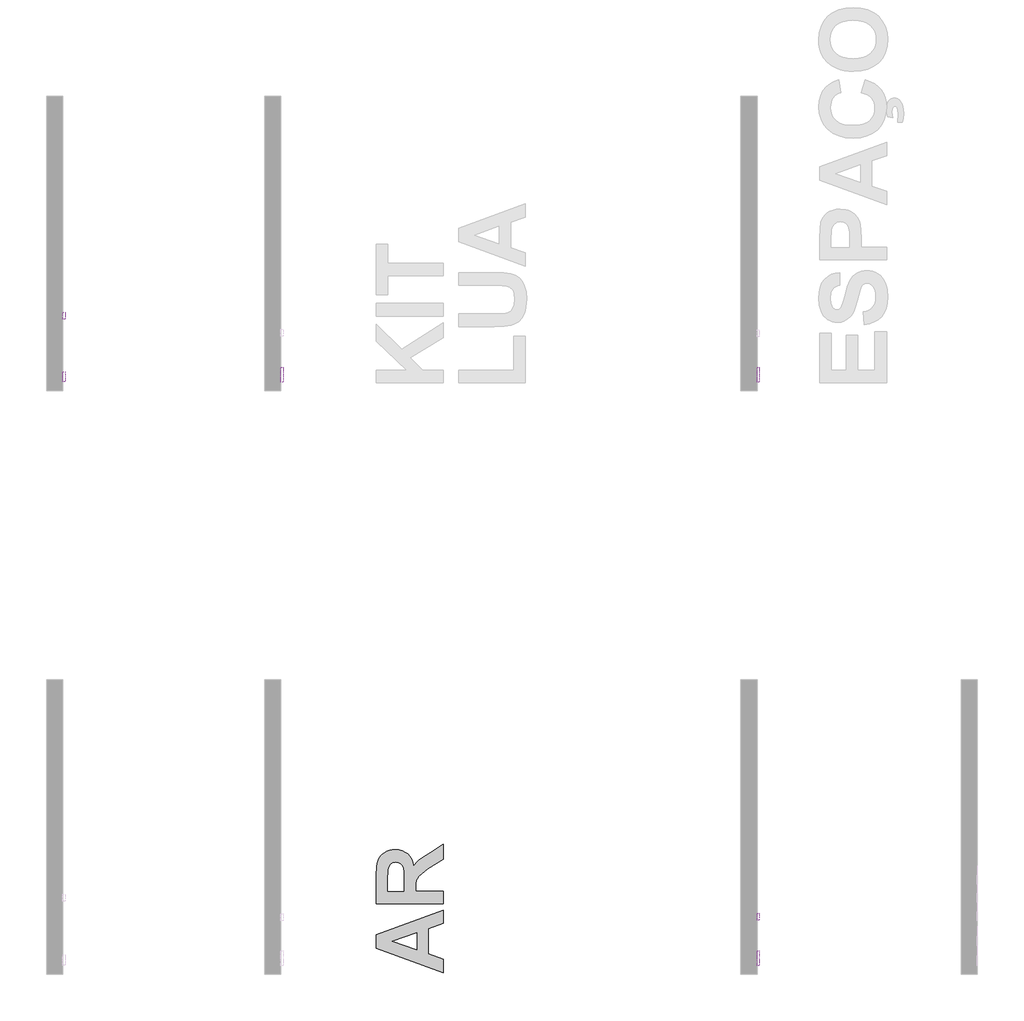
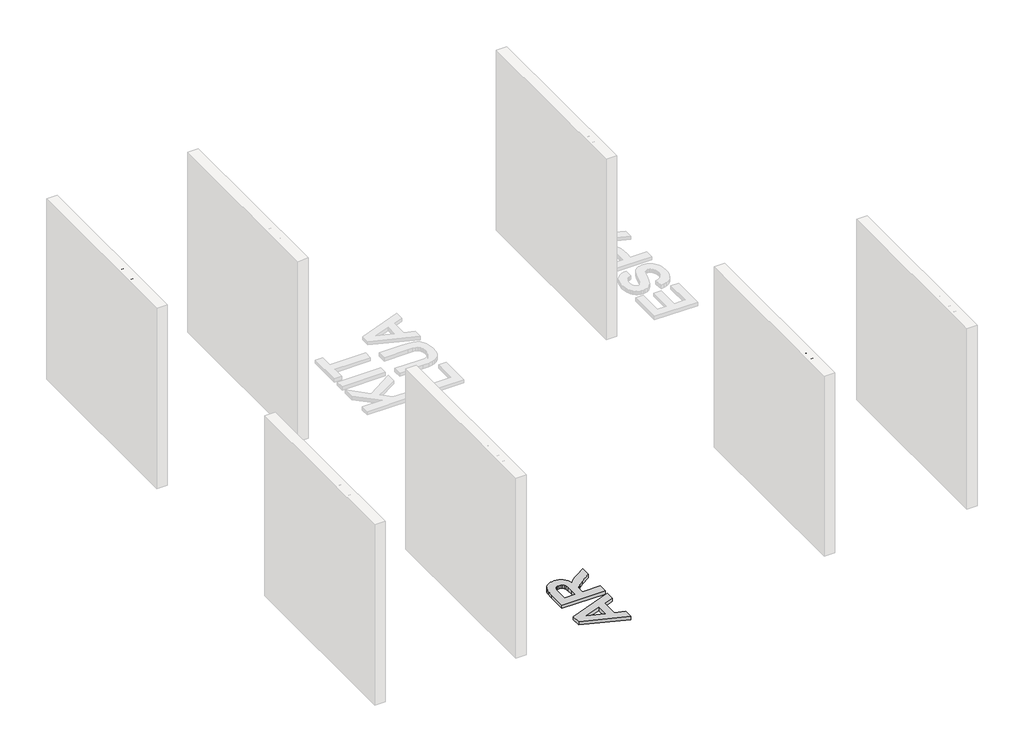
# One storey, part 2 of 9: 7 proxies.
"""IFC4 building model written with IfcOpenShell, lengths in millimetres."""

import ifcopenshell
import ifcopenshell.guid

model = None  # the IFC model being written
_history = None  # IfcOwnerHistory: only IFC2X3 demands one
_inside = {}  # id of a spatial element -> (the spatial element, [elements in it])
_under = {}  # id of a project, library or spatial element -> (it, [spatial elements below it])
_declared = {}  # id of a project -> (the project, [libraries it declares])
_typed = {}  # id of a type object -> (the type object, [elements of that type])
_made_of = {}  # id of a material, layer set ... -> (it, [elements and type objects made of it])


def new_model(schema):
    """Start an empty IFC model of exactly this schema.

    Asked for "IFC4X3", IfcOpenShell would pick the latest addendum, in which some entities
    have other attributes; the version numbers below select the first issue.
    IFC2X3 requires an IfcOwnerHistory on every rooted entity: one is made here for all.
    """
    global model, _history
    if schema == "IFC4X3":
        model = ifcopenshell.file(schema_version=(4, 3, 0, 0))
    else:
        model = ifcopenshell.file(schema=schema)
    _inside.clear()
    _under.clear()
    _declared.clear()
    _typed.clear()
    _made_of.clear()
    _history = None
    if model.schema == "IFC2X3":
        org = make("IfcOrganization", Name="unknown")
        user = make(
            "IfcPersonAndOrganization",
            ThePerson=make("IfcPerson", FamilyName="unknown"),
            TheOrganization=org,
        )
        app = make(
            "IfcApplication",
            ApplicationDeveloper=org,
            Version="unknown",
            ApplicationFullName="unknown",
            ApplicationIdentifier="unknown",
        )
        _history = make(
            "IfcOwnerHistory",
            OwningUser=user,
            OwningApplication=app,
            ChangeAction="ADDED",
            CreationDate=0,
        )
    return model


def make(cls, **values):
    """One entity of the class cls with the attributes given. An attribute that is None is left unset."""
    return model.create_entity(
        cls, **{name: value for name, value in values.items() if value is not None}
    )


def rooted(cls, **values):
    """An entity with a GlobalId (a new one), such as an element, a storey or a relation."""
    return make(cls, GlobalId=ifcopenshell.guid.new(), OwnerHistory=_history, **values)


def si_unit(unit_type, name, prefix=None):
    """IfcSIUnit, for example si_unit("LENGTHUNIT", "METRE", prefix="MILLI")."""
    return make("IfcSIUnit", UnitType=unit_type, Prefix=prefix, Name=name)


def assignment(units):
    """IfcUnitAssignment: the units of a project."""
    return None if units is None else make("IfcUnitAssignment", Units=units)


def point(xyz):
    """IfcCartesianPoint."""
    return None if xyz is None else make("IfcCartesianPoint", Coordinates=xyz)


def direction(xyz):
    """IfcDirection."""
    return None if xyz is None else make("IfcDirection", DirectionRatios=xyz)


def frame(location, z_axis=None, x_axis=None):
    """IfcAxis2Placement3D, a coordinate frame: its origin and axes. An axis left out is left unset."""
    return make(
        "IfcAxis2Placement3D",
        Location=point(location),
        Axis=direction(z_axis),
        RefDirection=direction(x_axis),
    )


def origin():
    """The frame at (0, 0, 0) with its axes left unset."""
    return frame((0.0, 0.0, 0.0))


def origin_with_axes():
    """The frame at (0, 0, 0) with the z axis (0, 0, 1) and the x axis (1, 0, 0) written out."""
    return frame((0.0, 0.0, 0.0), z_axis=(0.0, 0.0, 1.0), x_axis=(1.0, 0.0, 0.0))


def place(relative_to, where):
    """IfcLocalPlacement: puts the frame where relative to a parent placement (None: the world)."""
    return make(
        "IfcLocalPlacement", PlacementRelTo=relative_to, RelativePlacement=where
    )


def context(
    kind, dimensions, precision=None, world=None, true_north=None, identifier=None
):
    """IfcGeometricRepresentationContext, for example the 3D "Model" context."""
    return make(
        "IfcGeometricRepresentationContext",
        ContextIdentifier=identifier,
        ContextType=kind,
        CoordinateSpaceDimension=dimensions,
        Precision=precision,
        WorldCoordinateSystem=world,
        TrueNorth=true_north,
    )


def project(units=None, contexts=None):
    """IfcProject with its units and contexts."""
    return rooted(
        "IfcProject",
        Name="project",
        RepresentationContexts=contexts,
        UnitsInContext=assignment(units),
    )


def spatial(cls, under=None, at=None, **own):
    """A site, building, storey or space (cls), placed at a placement, below another one or the project."""
    s = rooted(cls, ObjectPlacement=at, **own)
    if under is not None:
        _under.setdefault(under.id(), (under, []))[1].append(s)
    return s


def polyline(points):
    """IfcPolyline through the points."""
    return make("IfcPolyline", Points=[point(p) for p in points])


def outline(outer, holes=None, kind="AREA"):
    """IfcArbitraryClosedProfileDef: a profile drawn as a closed curve; with holes, ...WithVoids."""
    if holes is None:
        return make("IfcArbitraryClosedProfileDef", ProfileType=kind, OuterCurve=outer)
    return make(
        "IfcArbitraryProfileDefWithVoids",
        ProfileType=kind,
        OuterCurve=outer,
        InnerCurves=holes,
    )


def extrude(swept, where, along, depth):
    """IfcExtrudedAreaSolid: the profile swept, set in the frame where, extruded along a direction by depth."""
    return make(
        "IfcExtrudedAreaSolid",
        SweptArea=swept,
        Position=where,
        ExtrudedDirection=direction(along),
        Depth=depth,
    )


def shape(context_of_items, identifier, shape_type, items):
    """IfcShapeRepresentation: the items that make up one representation, for example the "Body"."""
    return make(
        "IfcShapeRepresentation",
        ContextOfItems=context_of_items,
        RepresentationIdentifier=identifier,
        RepresentationType=shape_type,
        Items=items,
    )


def made_of(thing, what):
    """Note that an element or type object is made of a material, layer set ...; save() writes the relation."""
    if what is not None:
        _made_of.setdefault(what.id(), (what, []))[1].append(thing)
    return thing


def element(
    cls,
    number,
    at=None,
    inside=None,
    cuts=None,
    type_object=None,
    material=None,
    context=None,
    identifier="Body",
    shape_type=None,
    held_by="IfcProductDefinitionShape",
    body=None,
    shapes=None,
    **own,
):
    """One element of the class cls, such as IfcWall. Its Tag is "e" and its number.

    at: its placement. inside: the storey or other place that contains it. cuts: it is an
    opening in that element (IfcRelVoidsElement). A single representation is given by context,
    identifier, shape_type and body (its items); several are given by shapes. held_by: the class
    of the entity that holds the representations. save() writes the other relations.
    """
    e = rooted(cls, Tag="e%d" % number, ObjectPlacement=at, **own)
    if body is not None:
        shapes = [shape(context, identifier, shape_type, body)]
    if shapes is not None:
        e.Representation = make(held_by, Representations=shapes)
    if inside is not None:
        _inside.setdefault(inside.id(), (inside, []))[1].append(e)
    if cuts is not None:
        rooted(
            "IfcRelVoidsElement", RelatingBuildingElement=cuts, RelatedOpeningElement=e
        )
    if type_object is not None:
        _typed.setdefault(type_object.id(), (type_object, []))[1].append(e)
    return made_of(e, material)


def aggregate(whole, parts):
    """IfcRelAggregates: a whole, such as a stair, and the parts it consists of."""
    return rooted("IfcRelAggregates", RelatingObject=whole, RelatedObjects=parts)


def save(model, path):
    """Write the relations noted so far, then the file.

    IfcRelAggregates (storeys below a building ...), IfcRelContainedInSpatialStructure (elements
    in a storey), IfcRelDefinesByType, IfcRelAssociatesMaterial and IfcRelDeclares: one each for
    every whole, place, type object, material and project.
    """
    for whole, parts in _under.values():
        aggregate(whole, parts)
    for where, things in _inside.values():
        rooted(
            "IfcRelContainedInSpatialStructure",
            RelatedElements=things,
            RelatingStructure=where,
        )
    for kind, things in _typed.values():
        rooted("IfcRelDefinesByType", RelatedObjects=things, RelatingType=kind)
    for what, things in _made_of.values():
        rooted("IfcRelAssociatesMaterial", RelatedObjects=things, RelatingMaterial=what)
    for by, libraries in _declared.values():
        rooted("IfcRelDeclares", RelatingContext=by, RelatedDefinitions=libraries)
    model.write(path)


model = new_model("IFC4")

# Units and contexts
model_context = context("Model", 3, world=origin())
ifc_project = project(units=[si_unit("LENGTHUNIT", "METRE", prefix="MILLI")], contexts=[model_context])

# Site, building, storey
site = spatial("IfcSite", under=ifc_project)
building = spatial("IfcBuilding", under=site)
storey = spatial("IfcBuildingStorey", under=building, Name="PORTOBELLO - SHOWROOM", Elevation=0.0)

# Proxies
placement = place(None, origin())
element("IfcBuildingElementProxy", 1, Name="10mm Arial", ObjectType="10mm Arial", at=placement, inside=storey, context=model_context, shape_type="SweptSolid", body=[
    extrude(outline(polyline([(-9748.5890703, 2548.4925024), (-9775.9840162, 2648.9488126), (-9763.0345699, 2648.9488126), (-9747.1420677, 2582.9262572), (-9742.2369745, 2562.5455946), (-9736.9885247, 2580.5718124), (-9717.073846, 2648.9488126), (-9698.4099661, 2648.9488126), (-9683.939941, 2599.3828451), (-9673.1732612, 2562.5455946), (-9668.4153208, 2582.337646), (-9652.3756658, 2648.9488126), (-9639.4262196, 2648.9488126), (-9666.8456909, 2548.4925024), (-9680.261121, 2548.4925024), (-9704.345129, 2625.9929761), (-9707.7051179, 2636.8087067), (-9711.4820397, 2623.7856841), (-9733.4323321, 2548.4925024), (-9748.5890703, 2548.4925024)])), frame((127826.5708693, 0.0, 0.0), z_axis=(1.0, 0.0, 0.0), x_axis=(0.0, 1.0, 0.0)), (0.0, 0.0, 1.0), 20.0),
    extrude(outline(polyline([(-9628.4388106, 2548.4925024), (-9628.4388106, 2648.9488126), (-9615.8817719, 2648.9488126), (-9615.8817719, 2612.0134603), (-9606.0899794, 2620.8794163), (-9594.0295814, 2623.834735), (-9579.9274382, 2620.6096362), (-9571.3680505, 2611.6946292), (-9568.7928765, 2595.1889903), (-9568.7928765, 2548.4925024), (-9581.3499153, 2548.4925024), (-9581.3499153, 2593.8891406), (-9585.3475663, 2607.1328925), (-9596.6783317, 2611.2776963), (-9606.9667649, 2608.4817931), (-9613.8338954, 2600.903424), (-9615.8817719, 2587.6841976), (-9615.8817719, 2548.4925024), (-9628.4388106, 2548.4925024)])), frame((127826.5708693, 0.0, 0.0), z_axis=(1.0, 0.0, 0.0), x_axis=(0.0, 1.0, 0.0)), (0.0, 0.0, 1.0), 20.0),
    extrude(outline(polyline([(127846.5708693, -9538.9699094), (127846.5708693, -9551.5269482), (127826.5708693, -9551.5269482), (127826.5708693, -9538.9699094), (127846.5708693, -9538.9699094)])), frame((0.0, 0.0, 2636.3917738), z_axis=(0.0, 0.0, 1.0), x_axis=(1.0, 0.0, 0.0)), (0.0, 0.0, 1.0), 12.5570388),
    extrude(outline(polyline([(127846.5708693, -9538.9699094), (127846.5708693, -9551.5269482), (127826.5708693, -9551.5269482), (127826.5708693, -9538.9699094), (127846.5708693, -9538.9699094)])), frame((0.0, 0.0, 2548.4925024), z_axis=(0.0, 0.0, 1.0), x_axis=(1.0, 0.0, 0.0)), (0.0, 0.0, 1.0), 73.7726028),
    extrude(outline(polyline([(-9493.4506439, 2558.9648766), (-9491.881014, 2548.1246204), (-9501.2742676, 2546.9228726), (-9511.7956927, 2549.0075372), (-9517.0441425, 2554.4767162), (-9518.5647214, 2568.7260122), (-9518.5647214, 2609.7080664), (-9527.9825005, 2609.7080664), (-9527.9825005, 2622.2651052), (-9518.5647214, 2622.2651052), (-9518.5647214, 2640.1932211), (-9506.0076826, 2647.5753865), (-9506.0076826, 2622.2651052), (-9493.4506439, 2622.2651052), (-9493.4506439, 2609.7080664), (-9506.0076826, 2609.7080664), (-9506.0076826, 2569.0938942), (-9505.345495, 2562.619171), (-9503.1995167, 2560.3260399), (-9498.9198229, 2559.4799113), (-9493.4506439, 2558.9648766)])), frame((127826.5708693, 0.0, 0.0), z_axis=(1.0, 0.0, 0.0), x_axis=(0.0, 1.0, 0.0)), (0.0, 0.0, 1.0), 20.0),
    extrude(outline(polyline([(-9429.242973, 2570.4673203), (-9416.9311889, 2568.8976904), (-9421.3672326, 2559.6209328), (-9428.4458953, 2552.6863572), (-9438.0077615, 2548.3637437), (-9449.8934156, 2546.9228726), (-9464.6270895, 2549.4091417), (-9475.9639864, 2556.8679492), (-9483.1928676, 2568.814917), (-9485.6024946, 2584.7656671), (-9483.1683421, 2601.2529119), (-9475.8658845, 2613.5830901), (-9464.6822718, 2621.2718238), (-9450.6046542, 2623.834735), (-9436.9654292, 2621.2779552), (-9426.0669251, 2613.6076156), (-9418.9208173, 2601.3019628), (-9416.5387814, 2584.8392435), (-9416.6123578, 2581.4547292), (-9473.0454559, 2581.4547292), (-9470.8718864, 2572.0553442), (-9465.822706, 2565.1452941), (-9458.5355768, 2560.896257), (-9449.648161, 2559.4799113), (-9437.3363769, 2562.1041362), (-9429.242973, 2570.4673203)]), holes=[polyline([(-9473.0454559, 2594.011768), (-9429.0958202, 2594.011768), (-9434.1235408, 2605.3915843), (-9441.4443925, 2609.8061683), (-9450.6537051, 2611.2776963), (-9466.1170116, 2606.5810695), (-9470.982251, 2601.0904307), (-9473.0454559, 2594.011768)])]), frame((127826.5708693, 0.0, 0.0), z_axis=(1.0, 0.0, 0.0), x_axis=(0.0, 1.0, 0.0)), (0.0, 0.0, 1.0), 20.0),
])
element("IfcBuildingElementProxy", 2, Name="10mm Arial", ObjectType="10mm Arial", at=placement, inside=storey, context=model_context, shape_type="SweptSolid", body=[
    extrude(outline(polyline([(-4398.5890703, 2548.4925024), (-4425.9840162, 2648.9488126), (-4413.0345699, 2648.9488126), (-4397.1420677, 2582.9262572), (-4392.2369745, 2562.5455946), (-4386.9885247, 2580.5718124), (-4367.073846, 2648.9488126), (-4348.4099661, 2648.9488126), (-4333.939941, 2599.3828451), (-4323.1732612, 2562.5455946), (-4318.4153208, 2582.337646), (-4302.3756658, 2648.9488126), (-4289.4262196, 2648.9488126), (-4316.8456909, 2548.4925024), (-4330.261121, 2548.4925024), (-4354.345129, 2625.9929761), (-4357.7051179, 2636.8087067), (-4361.4820397, 2623.7856841), (-4383.4323321, 2548.4925024), (-4398.5890703, 2548.4925024)])), frame((127826.5708693, 0.0, 0.0), z_axis=(1.0, 0.0, 0.0), x_axis=(0.0, 1.0, 0.0)), (0.0, 0.0, 1.0), 20.0),
    extrude(outline(polyline([(-4278.4388106, 2548.4925024), (-4278.4388106, 2648.9488126), (-4265.8817719, 2648.9488126), (-4265.8817719, 2612.0134603), (-4256.0899794, 2620.8794163), (-4244.0295814, 2623.834735), (-4229.9274382, 2620.6096362), (-4221.3680505, 2611.6946292), (-4218.7928765, 2595.1889903), (-4218.7928765, 2548.4925024), (-4231.3499153, 2548.4925024), (-4231.3499153, 2593.8891406), (-4235.3475663, 2607.1328925), (-4246.6783317, 2611.2776963), (-4256.9667649, 2608.4817931), (-4263.8338954, 2600.903424), (-4265.8817719, 2587.6841976), (-4265.8817719, 2548.4925024), (-4278.4388106, 2548.4925024)])), frame((127826.5708693, 0.0, 0.0), z_axis=(1.0, 0.0, 0.0), x_axis=(0.0, 1.0, 0.0)), (0.0, 0.0, 1.0), 20.0),
    extrude(outline(polyline([(127846.5708693, -4188.9699094), (127846.5708693, -4201.5269482), (127826.5708693, -4201.5269482), (127826.5708693, -4188.9699094), (127846.5708693, -4188.9699094)])), frame((0.0, 0.0, 2636.3917738), z_axis=(0.0, 0.0, 1.0), x_axis=(1.0, 0.0, 0.0)), (0.0, 0.0, 1.0), 12.5570388),
    extrude(outline(polyline([(127846.5708693, -4188.9699094), (127846.5708693, -4201.5269482), (127826.5708693, -4201.5269482), (127826.5708693, -4188.9699094), (127846.5708693, -4188.9699094)])), frame((0.0, 0.0, 2548.4925024), z_axis=(0.0, 0.0, 1.0), x_axis=(1.0, 0.0, 0.0)), (0.0, 0.0, 1.0), 73.7726028),
    extrude(outline(polyline([(-4143.4506439, 2558.9648766), (-4141.881014, 2548.1246204), (-4151.2742676, 2546.9228726), (-4161.7956927, 2549.0075372), (-4167.0441425, 2554.4767162), (-4168.5647214, 2568.7260122), (-4168.5647214, 2609.7080664), (-4177.9825005, 2609.7080664), (-4177.9825005, 2622.2651052), (-4168.5647214, 2622.2651052), (-4168.5647214, 2640.1932211), (-4156.0076826, 2647.5753865), (-4156.0076826, 2622.2651052), (-4143.4506439, 2622.2651052), (-4143.4506439, 2609.7080664), (-4156.0076826, 2609.7080664), (-4156.0076826, 2569.0938942), (-4155.345495, 2562.619171), (-4153.1995167, 2560.3260399), (-4148.9198229, 2559.4799113), (-4143.4506439, 2558.9648766)])), frame((127826.5708693, 0.0, 0.0), z_axis=(1.0, 0.0, 0.0), x_axis=(0.0, 1.0, 0.0)), (0.0, 0.0, 1.0), 20.0),
    extrude(outline(polyline([(-4079.242973, 2570.4673203), (-4066.9311889, 2568.8976904), (-4071.3672326, 2559.6209328), (-4078.4458953, 2552.6863572), (-4088.0077615, 2548.3637437), (-4099.8934156, 2546.9228726), (-4114.6270895, 2549.4091417), (-4125.9639864, 2556.8679492), (-4133.1928676, 2568.814917), (-4135.6024946, 2584.7656671), (-4133.1683421, 2601.2529119), (-4125.8658845, 2613.5830901), (-4114.6822718, 2621.2718238), (-4100.6046542, 2623.834735), (-4086.9654292, 2621.2779552), (-4076.0669251, 2613.6076156), (-4068.9208173, 2601.3019628), (-4066.5387814, 2584.8392435), (-4066.6123578, 2581.4547292), (-4123.0454559, 2581.4547292), (-4120.8718864, 2572.0553442), (-4115.822706, 2565.1452941), (-4108.5355768, 2560.896257), (-4099.648161, 2559.4799113), (-4087.3363769, 2562.1041362), (-4079.242973, 2570.4673203)]), holes=[polyline([(-4123.0454559, 2594.011768), (-4079.0958202, 2594.011768), (-4084.1235408, 2605.3915843), (-4091.4443925, 2609.8061683), (-4100.6537051, 2611.2776963), (-4116.1170116, 2606.5810695), (-4120.982251, 2601.0904307), (-4123.0454559, 2594.011768)])]), frame((127826.5708693, 0.0, 0.0), z_axis=(1.0, 0.0, 0.0), x_axis=(0.0, 1.0, 0.0)), (0.0, 0.0, 1.0), 20.0),
])
element("IfcBuildingElementProxy", 3, Name="10mm Arial", ObjectType="10mm Arial", at=placement, inside=storey, context=model_context, shape_type="SweptSolid", body=[
    extrude(outline(polyline([(-4369.4773417, 2587.7332486), (-4369.4773417, 2600.2902873), (-4328.6669657, 2600.2902873), (-4328.6669657, 2562.7417984), (-4348.8146363, 2550.8959981), (-4370.1150038, 2546.9228726), (-4384.2018186, 2548.5016995), (-4396.9336013, 2553.2381802), (-4407.5102086, 2560.9667677), (-4415.1314973, 2571.5219153), (-4419.7392193, 2584.1831873), (-4421.2751266, 2598.2301482), (-4419.7453507, 2612.3782766), (-4415.1560228, 2625.5392549), (-4407.6972153, 2636.5787805), (-4397.5590007, 2644.3625504), (-4385.2104284, 2648.9794694), (-4371.120548, 2650.5184424), (-4351.4756494, 2646.9499871), (-4337.7046001, 2637.0171732), (-4330.1139682, 2620.4011697), (-4341.6899883, 2617.1392827), (-4347.4166847, 2628.752091), (-4357.2023458, 2635.4475433), (-4371.3167517, 2637.9614036), (-4387.3931949, 2635.2513396), (-4398.3315529, 2628.1389544), (-4404.7940132, 2618.4636579), (-4408.7180879, 2598.745183), (-4403.9969356, 2576.8562043), (-4390.2626744, 2563.7596052), (-4371.120548, 2559.4799113), (-4353.9404588, 2562.7050102), (-4341.2240045, 2569.5844035), (-4341.2240045, 2587.7332486), (-4369.4773417, 2587.7332486)])), frame((121459.5859035, 0.0, 0.0), z_axis=(1.0, 0.0, 0.0), x_axis=(0.0, 1.0, 0.0)), (0.0, 0.0, 1.0), 20.0),
    extrude(outline(polyline([(-4309.8314076, 2548.4925024), (-4309.8314076, 2622.2651052), (-4298.8439986, 2622.2651052), (-4298.8439986, 2611.3512727), (-4291.0449003, 2621.4067139), (-4283.1967511, 2623.834735), (-4270.5906614, 2619.9597114), (-4274.7845161, 2608.7025223), (-4283.613684, 2611.2776963), (-4290.7138065, 2608.8006242), (-4295.2387551, 2601.9334936), (-4297.2743688, 2587.2672647), (-4297.2743688, 2548.4925024), (-4309.8314076, 2548.4925024)])), frame((121459.5859035, 0.0, 0.0), z_axis=(1.0, 0.0, 0.0), x_axis=(0.0, 1.0, 0.0)), (0.0, 0.0, 1.0), 20.0),
    extrude(outline(polyline([(-4215.6536168, 2557.9102815), (-4227.8305108, 2549.3999447), (-4241.2827291, 2546.9228726), (-4251.776563, 2548.4127947), (-4259.5174133, 2552.8825609), (-4264.2906822, 2559.6699837), (-4265.8817719, 2568.1128755), (-4263.4782762, 2578.0456894), (-4257.1629686, 2585.2561765), (-4248.3705889, 2589.3764548), (-4237.5058073, 2591.2649157), (-4215.7271932, 2595.5813978), (-4215.6536168, 2598.377301), (-4219.1117075, 2607.6479272), (-4232.9931215, 2611.2776963), (-4245.6973131, 2608.8619378), (-4251.7551033, 2600.2902873), (-4264.312142, 2601.8599172), (-4258.8797512, 2614.1226504), (-4247.9413932, 2621.308612), (-4231.3744407, 2623.834735), (-4216.1563889, 2621.6029176), (-4207.5602129, 2615.9988485), (-4203.7097147, 2607.476249), (-4203.096578, 2596.4888401), (-4203.096578, 2580.866118), (-4202.4589159, 2559.0507157), (-4199.9573183, 2548.4925024), (-4212.5143571, 2548.4925024), (-4215.6536168, 2557.9102815)]), holes=[polyline([(-4215.6536168, 2583.024359), (-4235.911652, 2579.1738608), (-4246.7151199, 2577.1382471), (-4251.6079505, 2573.8273092), (-4253.3247331, 2568.9957923), (-4249.5845995, 2562.2022381), (-4238.6094533, 2559.4799113), (-4225.9052617, 2562.484281), (-4217.713756, 2569.7560817), (-4215.7271932, 2579.4681664), (-4215.6536168, 2583.024359)])]), frame((121459.5859035, 0.0, 0.0), z_axis=(1.0, 0.0, 0.0), x_axis=(0.0, 1.0, 0.0)), (0.0, 0.0, 1.0), 20.0),
    extrude(outline(polyline([(-4185.8306497, 2520.2391652), (-4185.8306497, 2622.2651052), (-4173.2736109, 2622.2651052), (-4173.2736109, 2609.9533211), (-4164.5915959, 2620.3643815), (-4152.8684229, 2623.834735), (-4136.9513953, 2618.9786927), (-4126.5525976, 2605.2934825), (-4123.0454559, 2585.9428895), (-4127.0063187, 2565.5990152), (-4138.5087624, 2551.7421267), (-4154.3890019, 2546.9228726), (-4165.3150971, 2550.1479714), (-4173.2736109, 2558.302689), (-4173.2736109, 2520.2391652), (-4185.8306497, 2520.2391652)]), holes=[polyline([(-4173.2736109, 2584.7901926), (-4171.9155132, 2573.5330036), (-4167.8412202, 2565.6603289), (-4161.8294152, 2561.0250157), (-4154.658782, 2559.4799113), (-4147.3716528, 2561.080198), (-4141.2065637, 2565.8810581), (-4137.0035119, 2574.041907), (-4135.6024946, 2585.7221603), (-4136.9697894, 2596.9180357), (-4141.0716736, 2604.901075), (-4147.0742815, 2609.683541), (-4154.1437472, 2611.2776963), (-4161.240804, 2609.5823734), (-4167.4733382, 2604.4964048), (-4171.8235427, 2596.179206), (-4173.2736109, 2584.7901926)])]), frame((121459.5859035, 0.0, 0.0), z_axis=(1.0, 0.0, 0.0), x_axis=(0.0, 1.0, 0.0)), (0.0, 0.0, 1.0), 20.0),
    extrude(outline(polyline([(-4108.9187873, 2548.4925024), (-4108.9187873, 2648.9488126), (-4096.3617485, 2648.9488126), (-4096.3617485, 2612.0134603), (-4086.5699561, 2620.8794163), (-4074.509558, 2623.834735), (-4060.4074148, 2620.6096362), (-4051.8480271, 2611.6946292), (-4049.2728531, 2595.1889903), (-4049.2728531, 2548.4925024), (-4061.8298919, 2548.4925024), (-4061.8298919, 2593.8891406), (-4065.8275429, 2607.1328925), (-4077.1583083, 2611.2776963), (-4087.4467415, 2608.4817931), (-4094.313872, 2600.903424), (-4096.3617485, 2587.6841976), (-4096.3617485, 2548.4925024), (-4108.9187873, 2548.4925024)])), frame((121459.5859035, 0.0, 0.0), z_axis=(1.0, 0.0, 0.0), x_axis=(0.0, 1.0, 0.0)), (0.0, 0.0, 1.0), 20.0),
    extrude(outline(polyline([(121479.5859035, -4019.449886), (121479.5859035, -4032.0069248), (121459.5859035, -4032.0069248), (121459.5859035, -4019.449886), (121479.5859035, -4019.449886)])), frame((0.0, 0.0, 2636.3917738), z_axis=(0.0, 0.0, 1.0), x_axis=(1.0, 0.0, 0.0)), (0.0, 0.0, 1.0), 12.5570388),
    extrude(outline(polyline([(121479.5859035, -4019.449886), (121479.5859035, -4032.0069248), (121459.5859035, -4032.0069248), (121459.5859035, -4019.449886), (121479.5859035, -4019.449886)])), frame((0.0, 0.0, 2548.4925024), z_axis=(0.0, 0.0, 1.0), x_axis=(1.0, 0.0, 0.0)), (0.0, 0.0, 1.0), 73.7726028),
    extrude(outline(polyline([(-3973.9306205, 2558.9648766), (-3972.3609906, 2548.1246204), (-3981.7542443, 2546.9228726), (-3992.2756693, 2549.0075372), (-3997.5241191, 2554.4767162), (-3999.044698, 2568.7260122), (-3999.044698, 2609.7080664), (-4008.4624771, 2609.7080664), (-4008.4624771, 2622.2651052), (-3999.044698, 2622.2651052), (-3999.044698, 2640.1932211), (-3986.4876593, 2647.5753865), (-3986.4876593, 2622.2651052), (-3973.9306205, 2622.2651052), (-3973.9306205, 2609.7080664), (-3986.4876593, 2609.7080664), (-3986.4876593, 2569.0938942), (-3985.8254717, 2562.619171), (-3983.6794934, 2560.3260399), (-3979.3997995, 2559.4799113), (-3973.9306205, 2558.9648766)])), frame((121459.5859035, 0.0, 0.0), z_axis=(1.0, 0.0, 0.0), x_axis=(0.0, 1.0, 0.0)), (0.0, 0.0, 1.0), 20.0),
    extrude(outline(polyline([(-3909.7229496, 2570.4673203), (-3897.4111655, 2568.8976904), (-3901.8472092, 2559.6209328), (-3908.9258719, 2552.6863572), (-3918.4877381, 2548.3637437), (-3930.3733923, 2546.9228726), (-3945.1070662, 2549.4091417), (-3956.443963, 2556.8679492), (-3963.6728442, 2568.814917), (-3966.0824713, 2584.7656671), (-3963.6483187, 2601.2529119), (-3956.3458611, 2613.5830901), (-3945.1622485, 2621.2718238), (-3931.0846308, 2623.834735), (-3917.4454058, 2621.2779552), (-3906.5469017, 2613.6076156), (-3899.400794, 2601.3019628), (-3897.018758, 2584.8392435), (-3897.0923344, 2581.4547292), (-3953.5254325, 2581.4547292), (-3951.351863, 2572.0553442), (-3946.3026827, 2565.1452941), (-3939.0155535, 2560.896257), (-3930.1281376, 2559.4799113), (-3917.8163535, 2562.1041362), (-3909.7229496, 2570.4673203)]), holes=[polyline([(-3953.5254325, 2594.011768), (-3909.5757968, 2594.011768), (-3914.6035174, 2605.3915843), (-3921.9243691, 2609.8061683), (-3931.1336817, 2611.2776963), (-3946.5969883, 2606.5810695), (-3951.4622276, 2601.0904307), (-3953.5254325, 2594.011768)])]), frame((121459.5859035, 0.0, 0.0), z_axis=(1.0, 0.0, 0.0), x_axis=(0.0, 1.0, 0.0)), (0.0, 0.0, 1.0), 20.0),
])
element("IfcBuildingElementProxy", 4, Name="10mm Arial", ObjectType="10mm Arial", at=placement, inside=storey, context=model_context, shape_type="SweptSolid", body=[
    extrude(outline(polyline([(-4398.5890703, 2548.4925024), (-4425.9840162, 2648.9488126), (-4413.0345699, 2648.9488126), (-4397.1420677, 2582.9262572), (-4392.2369745, 2562.5455946), (-4386.9885247, 2580.5718124), (-4367.073846, 2648.9488126), (-4348.4099661, 2648.9488126), (-4333.939941, 2599.3828451), (-4323.1732612, 2562.5455946), (-4318.4153208, 2582.337646), (-4302.3756658, 2648.9488126), (-4289.4262196, 2648.9488126), (-4316.8456909, 2548.4925024), (-4330.261121, 2548.4925024), (-4354.345129, 2625.9929761), (-4357.7051179, 2636.8087067), (-4361.4820397, 2623.7856841), (-4383.4323321, 2548.4925024), (-4398.5890703, 2548.4925024)])), frame((123459.5859035, 0.0, 0.0), z_axis=(1.0, 0.0, 0.0), x_axis=(0.0, 1.0, 0.0)), (0.0, 0.0, 1.0), 20.0),
    extrude(outline(polyline([(-4278.4388106, 2548.4925024), (-4278.4388106, 2648.9488126), (-4265.8817719, 2648.9488126), (-4265.8817719, 2612.0134603), (-4256.0899794, 2620.8794163), (-4244.0295814, 2623.834735), (-4229.9274382, 2620.6096362), (-4221.3680505, 2611.6946292), (-4218.7928765, 2595.1889903), (-4218.7928765, 2548.4925024), (-4231.3499153, 2548.4925024), (-4231.3499153, 2593.8891406), (-4235.3475663, 2607.1328925), (-4246.6783317, 2611.2776963), (-4256.9667649, 2608.4817931), (-4263.8338954, 2600.903424), (-4265.8817719, 2587.6841976), (-4265.8817719, 2548.4925024), (-4278.4388106, 2548.4925024)])), frame((123459.5859035, 0.0, 0.0), z_axis=(1.0, 0.0, 0.0), x_axis=(0.0, 1.0, 0.0)), (0.0, 0.0, 1.0), 20.0),
    extrude(outline(polyline([(123479.5859035, -4188.9699094), (123479.5859035, -4201.5269482), (123459.5859035, -4201.5269482), (123459.5859035, -4188.9699094), (123479.5859035, -4188.9699094)])), frame((0.0, 0.0, 2636.3917738), z_axis=(0.0, 0.0, 1.0), x_axis=(1.0, 0.0, 0.0)), (0.0, 0.0, 1.0), 12.5570388),
    extrude(outline(polyline([(123479.5859035, -4188.9699094), (123479.5859035, -4201.5269482), (123459.5859035, -4201.5269482), (123459.5859035, -4188.9699094), (123479.5859035, -4188.9699094)])), frame((0.0, 0.0, 2548.4925024), z_axis=(0.0, 0.0, 1.0), x_axis=(1.0, 0.0, 0.0)), (0.0, 0.0, 1.0), 73.7726028),
    extrude(outline(polyline([(-4143.4506439, 2558.9648766), (-4141.881014, 2548.1246204), (-4151.2742676, 2546.9228726), (-4161.7956927, 2549.0075372), (-4167.0441425, 2554.4767162), (-4168.5647214, 2568.7260122), (-4168.5647214, 2609.7080664), (-4177.9825005, 2609.7080664), (-4177.9825005, 2622.2651052), (-4168.5647214, 2622.2651052), (-4168.5647214, 2640.1932211), (-4156.0076826, 2647.5753865), (-4156.0076826, 2622.2651052), (-4143.4506439, 2622.2651052), (-4143.4506439, 2609.7080664), (-4156.0076826, 2609.7080664), (-4156.0076826, 2569.0938942), (-4155.345495, 2562.619171), (-4153.1995167, 2560.3260399), (-4148.9198229, 2559.4799113), (-4143.4506439, 2558.9648766)])), frame((123459.5859035, 0.0, 0.0), z_axis=(1.0, 0.0, 0.0), x_axis=(0.0, 1.0, 0.0)), (0.0, 0.0, 1.0), 20.0),
    extrude(outline(polyline([(-4079.242973, 2570.4673203), (-4066.9311889, 2568.8976904), (-4071.3672326, 2559.6209328), (-4078.4458953, 2552.6863572), (-4088.0077615, 2548.3637437), (-4099.8934156, 2546.9228726), (-4114.6270895, 2549.4091417), (-4125.9639864, 2556.8679492), (-4133.1928676, 2568.814917), (-4135.6024946, 2584.7656671), (-4133.1683421, 2601.2529119), (-4125.8658845, 2613.5830901), (-4114.6822718, 2621.2718238), (-4100.6046542, 2623.834735), (-4086.9654292, 2621.2779552), (-4076.0669251, 2613.6076156), (-4068.9208173, 2601.3019628), (-4066.5387814, 2584.8392435), (-4066.6123578, 2581.4547292), (-4123.0454559, 2581.4547292), (-4120.8718864, 2572.0553442), (-4115.822706, 2565.1452941), (-4108.5355768, 2560.896257), (-4099.648161, 2559.4799113), (-4087.3363769, 2562.1041362), (-4079.242973, 2570.4673203)]), holes=[polyline([(-4123.0454559, 2594.011768), (-4079.0958202, 2594.011768), (-4084.1235408, 2605.3915843), (-4091.4443925, 2609.8061683), (-4100.6537051, 2611.2776963), (-4116.1170116, 2606.5810695), (-4120.982251, 2601.0904307), (-4123.0454559, 2594.011768)])]), frame((123459.5859035, 0.0, 0.0), z_axis=(1.0, 0.0, 0.0), x_axis=(0.0, 1.0, 0.0)), (0.0, 0.0, 1.0), 20.0),
])
element("IfcBuildingElementProxy", 5, Name="10mm Arial Narrow", ObjectType="10mm Arial Narrow", at=placement, inside=storey, context=model_context, shape_type="SweptSolid", body=[
    extrude(outline(polyline([(-9359.431178, 2548.4925024), (-9359.431178, 2649.2111062), (-9328.1342933, 2649.2111062), (-9311.8385918, 2647.3327854), (-9300.3656057, 2637.8523423), (-9296.0759272, 2620.8332334), (-9297.8622356, 2608.7574079), (-9303.2211608, 2599.1310141), (-9312.9649496, 2592.8297557), (-9327.9058489, 2590.7293363), (-9349.6842163, 2590.7293363), (-9349.6842163, 2548.4925024), (-9359.431178, 2548.4925024)]), holes=[polyline([(-9349.6842163, 2602.1007915), (-9326.7128614, 2602.1007915), (-9310.848666, 2606.6316057), (-9305.8228889, 2620.3001965), (-9308.2977034, 2630.4659729), (-9314.2753322, 2636.2659227), (-9326.9413058, 2637.8396509), (-9349.6842163, 2637.8396509), (-9349.6842163, 2602.1007915)])]), frame((127826.5708693, 0.0, 0.0), z_axis=(1.0, 0.0, 0.0), x_axis=(0.0, 1.0, 0.0)), (0.0, 0.0, 1.0), 20.0),
    extrude(outline(polyline([(-9287.9534592, 2585.0436086), (-9285.9989903, 2601.6343842), (-9280.1355837, 2613.586469), (-9271.277017, 2620.8110236), (-9260.3370678, 2623.2192084), (-9249.5240322, 2620.8110236), (-9240.6400828, 2613.586469), (-9234.7005281, 2601.8247545), (-9232.7206765, 2585.80509), (-9234.6656268, 2568.6432034), (-9240.5004779, 2556.5007483), (-9249.3495261, 2549.2761937), (-9260.3370678, 2546.8680088), (-9271.197696, 2549.2825394), (-9280.0721269, 2556.526131), (-9285.9831261, 2568.4845615), (-9287.9534592, 2585.0436086)]), holes=[polyline([(-9278.2064975, 2585.0689913), (-9276.9024607, 2572.5172399), (-9272.9903501, 2563.6459819), (-9267.1491533, 2558.3727233), (-9260.057858, 2556.6149705), (-9253.3377848, 2558.3885875), (-9247.6457115, 2563.7094386), (-9243.7621565, 2572.5965609), (-9242.4676381, 2585.0689913), (-9243.771675, 2597.5826687), (-9247.6837856, 2606.4412354), (-9253.5249823, 2611.7144939), (-9260.6162777, 2613.4722468), (-9267.3839434, 2611.7049754), (-9273.0664982, 2606.4031613), (-9276.9214977, 2597.5350761), (-9278.2064975, 2585.0689913)])]), frame((127826.5708693, 0.0, 0.0), z_axis=(1.0, 0.0, 0.0), x_axis=(0.0, 1.0, 0.0)), (0.0, 0.0, 1.0), 20.0),
    extrude(outline(polyline([(-9161.2429577, 2556.6149705), (-9159.6184641, 2546.8680088), (-9166.9794507, 2546.8680088), (-9175.2542151, 2548.9874653), (-9179.5692762, 2554.7874152), (-9180.736881, 2569.4332403), (-9180.736881, 2611.8477532), (-9188.859349, 2611.8477532), (-9188.859349, 2615.0967404), (-9190.4838426, 2610.2232596), (-9198.047891, 2611.8477532), (-9204.1270507, 2609.525235), (-9207.9979144, 2603.0399519), (-9209.9777659, 2587.6326453), (-9209.9777659, 2548.4925024), (-9219.7247276, 2548.4925024), (-9219.7247276, 2621.5947148), (-9209.9777659, 2621.5947148), (-9209.9777659, 2611.8985186), (-9203.7336186, 2620.9855297), (-9197.3371751, 2623.2192084), (-9188.859349, 2621.5947148), (-9180.736881, 2621.5947148), (-9180.736881, 2637.8396509), (-9170.9899193, 2645.962119), (-9170.9899193, 2621.5947148), (-9161.2429577, 2621.5947148), (-9161.2429577, 2611.8477532), (-9170.9899193, 2611.8477532), (-9170.9899193, 2567.1995616), (-9170.1269071, 2559.2040072), (-9165.5072534, 2556.6149705), (-9161.2429577, 2556.6149705)])), frame((127826.5708693, 0.0, 0.0), z_axis=(1.0, 0.0, 0.0), x_axis=(0.0, 1.0, 0.0)), (0.0, 0.0, 1.0), 20.0),
    extrude(outline(polyline([(-9154.7449832, 2585.0436086), (-9152.7905144, 2601.6343842), (-9146.9271078, 2613.586469), (-9138.068541, 2620.8110236), (-9127.1285919, 2623.2192084), (-9116.3155563, 2620.8110236), (-9107.4316069, 2613.586469), (-9101.4920521, 2601.8247545), (-9099.5122005, 2585.80509), (-9101.4571509, 2568.6432034), (-9107.292002, 2556.5007483), (-9116.1410502, 2549.2761937), (-9127.1285919, 2546.8680088), (-9137.9892201, 2549.2825394), (-9146.863651, 2556.526131), (-9152.7746502, 2568.4845615), (-9154.7449832, 2585.0436086)]), holes=[polyline([(-9144.9980216, 2585.0689913), (-9143.6939847, 2572.5172399), (-9139.7818741, 2563.6459819), (-9133.9406774, 2558.3727233), (-9126.8493821, 2556.6149705), (-9120.1293089, 2558.3885875), (-9114.4372356, 2563.7094386), (-9110.5536805, 2572.5965609), (-9109.2591622, 2585.0689913), (-9110.5631991, 2597.5826687), (-9114.4753096, 2606.4412354), (-9120.3165064, 2611.7144939), (-9127.4078017, 2613.4722468), (-9134.1754675, 2611.7049754), (-9139.8580223, 2606.4031613), (-9143.7130218, 2597.5350761), (-9144.9980216, 2585.0689913)])]), frame((127826.5708693, 0.0, 0.0), z_axis=(1.0, 0.0, 0.0), x_axis=(0.0, 1.0, 0.0)), (0.0, 0.0, 1.0), 20.0),
    extrude(outline(polyline([(-9076.76929, 2548.4925024), (-9086.5162517, 2548.4925024), (-9086.5162517, 2649.2111062), (-9076.76929, 2649.2111062), (-9076.76929, 2613.802222), (-9069.3702293, 2620.8839989), (-9060.168996, 2623.2192084), (-9047.2872693, 2619.0183695), (-9038.0098878, 2606.2889391), (-9034.5324562, 2585.6020283), (-9036.4647152, 2569.1476848), (-9042.2614922, 2556.9449457), (-9050.6346145, 2549.387243), (-9060.2959095, 2546.8680088), (-9069.6367478, 2549.4824282), (-9076.76929, 2557.2495383), (-9076.76929, 2548.4925024)]), holes=[polyline([(-9076.76929, 2585.6020283), (-9074.6879076, 2568.3544751), (-9068.7991182, 2559.6228219), (-9060.3466749, 2556.6149705), (-9054.4039473, 2558.4044517), (-9049.16559, 2563.7728954), (-9044.2794178, 2585.1959049), (-9048.987911, 2606.6316057), (-9054.232614, 2611.7620865), (-9060.5497366, 2613.4722468), (-9066.5273655, 2611.6827655), (-9071.8196611, 2606.3143218), (-9076.76929, 2585.6020283)])]), frame((127826.5708693, 0.0, 0.0), z_axis=(1.0, 0.0, 0.0), x_axis=(0.0, 1.0, 0.0)), (0.0, 0.0, 1.0), 20.0),
    extrude(outline(polyline([(-8982.5486607, 2571.2354129), (-8972.801699, 2569.6109193), (-8976.5012294, 2559.7243528), (-8982.3202163, 2552.6045019), (-8990.0238696, 2548.3021321), (-8999.3773992, 2546.8680088), (-9010.9709532, 2549.2825394), (-9020.1150754, 2556.526131), (-9026.0546302, 2568.3322652), (-9028.0344818, 2584.4344235), (-9026.0451116, 2601.1013472), (-9020.0770013, 2613.2818764), (-9011.0629655, 2620.7348754), (-8999.9358189, 2623.2192084), (-8989.2528697, 2620.8205421), (-8980.5053523, 2613.6245431), (-8974.6705013, 2601.8850385), (-8972.7255509, 2585.8558554), (-8972.801699, 2582.6068682), (-9018.2875201, 2582.6068682), (-9012.2845086, 2563.1637103), (-9006.3544723, 2558.2521554), (-8999.2504856, 2556.6149705), (-8989.0720178, 2560.2700811), (-8982.5486607, 2571.2354129)]), holes=[polyline([(-9017.6275696, 2592.3538299), (-8982.5486607, 2592.3538299), (-8986.8129564, 2606.6189144), (-8992.638289, 2611.7589137), (-8999.8596707, 2613.4722468), (-9012.0687555, 2607.7611364), (-9017.6275696, 2592.3538299)])]), frame((127826.5708693, 0.0, 0.0), z_axis=(1.0, 0.0, 0.0), x_axis=(0.0, 1.0, 0.0)), (0.0, 0.0, 1.0), 20.0),
    extrude(outline(polyline([(127846.5708693, -8950.0587885), (127846.5708693, -8959.8057502), (127826.5708693, -8959.8057502), (127826.5708693, -8950.0587885), (127846.5708693, -8950.0587885)])), frame((0.0, 0.0, 2548.4925024), z_axis=(0.0, 0.0, 1.0), x_axis=(1.0, 0.0, 0.0)), (0.0, 0.0, 1.0), 100.7186038),
    extrude(outline(polyline([(127846.5708693, -8924.0668908), (127846.5708693, -8933.8138524), (127826.5708693, -8933.8138524), (127826.5708693, -8924.0668908), (127846.5708693, -8924.0668908)])), frame((0.0, 0.0, 2548.4925024), z_axis=(0.0, 0.0, 1.0), x_axis=(1.0, 0.0, 0.0)), (0.0, 0.0, 1.0), 100.7186038),
    extrude(outline(polyline([(-8912.6954355, 2585.0436086), (-8910.7409666, 2601.6343842), (-8904.87756, 2613.586469), (-8896.0189933, 2620.8110236), (-8885.0790442, 2623.2192084), (-8874.2660086, 2620.8110236), (-8865.3820592, 2613.586469), (-8859.4425044, 2601.8247545), (-8857.4626528, 2585.80509), (-8859.4076032, 2568.6432034), (-8865.2424542, 2556.5007483), (-8874.0915024, 2549.2761937), (-8885.0790442, 2546.8680088), (-8895.9396723, 2549.2825394), (-8904.8141032, 2556.526131), (-8910.7251024, 2568.4845615), (-8912.6954355, 2585.0436086)]), holes=[polyline([(-8902.9484739, 2585.0689913), (-8901.644437, 2572.5172399), (-8897.7323264, 2563.6459819), (-8891.8911297, 2558.3727233), (-8884.7998343, 2556.6149705), (-8878.0797612, 2558.3885875), (-8872.3876878, 2563.7094386), (-8868.5041328, 2572.5965609), (-8867.2096145, 2585.0689913), (-8868.5136513, 2597.5826687), (-8872.4257619, 2606.4412354), (-8878.2669587, 2611.7144939), (-8885.358254, 2613.4722468), (-8892.1259198, 2611.7049754), (-8897.8084746, 2606.4031613), (-8901.663474, 2597.5350761), (-8902.9484739, 2585.0689913)])]), frame((127826.5708693, 0.0, 0.0), z_axis=(1.0, 0.0, 0.0), x_axis=(0.0, 1.0, 0.0)), (0.0, 0.0, 1.0), 20.0),
])
element("IfcBuildingElementProxy", 6, Name="10mm Arial Narrow", ObjectType="10mm Arial Narrow", at=placement, inside=storey, context=model_context, shape_type="SweptSolid", body=[
    extrude(outline(polyline([(-3849.431178, 2548.4925024), (-3849.431178, 2649.2111062), (-3818.1342933, 2649.2111062), (-3801.8385918, 2647.3327854), (-3790.3656057, 2637.8523423), (-3786.0759272, 2620.8332334), (-3787.8622356, 2608.7574079), (-3793.2211608, 2599.1310141), (-3802.9649496, 2592.8297557), (-3817.9058489, 2590.7293363), (-3839.6842163, 2590.7293363), (-3839.6842163, 2548.4925024), (-3849.431178, 2548.4925024)]), holes=[polyline([(-3839.6842163, 2602.1007915), (-3816.7128614, 2602.1007915), (-3800.848666, 2606.6316057), (-3795.8228889, 2620.3001965), (-3798.2977034, 2630.4659729), (-3804.2753322, 2636.2659227), (-3816.9413058, 2637.8396509), (-3839.6842163, 2637.8396509), (-3839.6842163, 2602.1007915)])]), frame((121459.5859035, 0.0, 0.0), z_axis=(1.0, 0.0, 0.0), x_axis=(0.0, 1.0, 0.0)), (0.0, 0.0, 1.0), 20.0),
    extrude(outline(polyline([(-3777.9534592, 2585.0436086), (-3775.9989903, 2601.6343842), (-3770.1355837, 2613.586469), (-3761.277017, 2620.8110236), (-3750.3370678, 2623.2192084), (-3739.5240322, 2620.8110236), (-3730.6400828, 2613.586469), (-3724.7005281, 2601.8247545), (-3722.7206765, 2585.80509), (-3724.6656268, 2568.6432034), (-3730.5004779, 2556.5007483), (-3739.3495261, 2549.2761937), (-3750.3370678, 2546.8680088), (-3761.197696, 2549.2825394), (-3770.0721269, 2556.526131), (-3775.9831261, 2568.4845615), (-3777.9534592, 2585.0436086)]), holes=[polyline([(-3768.2064975, 2585.0689913), (-3766.9024607, 2572.5172399), (-3762.9903501, 2563.6459819), (-3757.1491533, 2558.3727233), (-3750.057858, 2556.6149705), (-3743.3377848, 2558.3885875), (-3737.6457115, 2563.7094386), (-3733.7621565, 2572.5965609), (-3732.4676381, 2585.0689913), (-3733.771675, 2597.5826687), (-3737.6837856, 2606.4412354), (-3743.5249823, 2611.7144939), (-3750.6162777, 2613.4722468), (-3757.3839434, 2611.7049754), (-3763.0664982, 2606.4031613), (-3766.9214977, 2597.5350761), (-3768.2064975, 2585.0689913)])]), frame((121459.5859035, 0.0, 0.0), z_axis=(1.0, 0.0, 0.0), x_axis=(0.0, 1.0, 0.0)), (0.0, 0.0, 1.0), 20.0),
    extrude(outline(polyline([(-3651.2429577, 2556.6149705), (-3649.6184641, 2546.8680088), (-3656.9794507, 2546.8680088), (-3665.2542151, 2548.9874653), (-3669.5692762, 2554.7874152), (-3670.736881, 2569.4332403), (-3670.736881, 2611.8477532), (-3678.859349, 2611.8477532), (-3678.859349, 2615.0967404), (-3680.4838426, 2610.2232596), (-3688.047891, 2611.8477532), (-3694.1270507, 2609.525235), (-3697.9979144, 2603.0399519), (-3699.9777659, 2587.6326453), (-3699.9777659, 2548.4925024), (-3709.7247276, 2548.4925024), (-3709.7247276, 2621.5947148), (-3699.9777659, 2621.5947148), (-3699.9777659, 2611.8985186), (-3693.7336186, 2620.9855297), (-3687.3371751, 2623.2192084), (-3678.859349, 2621.5947148), (-3670.736881, 2621.5947148), (-3670.736881, 2637.8396509), (-3660.9899193, 2645.962119), (-3660.9899193, 2621.5947148), (-3651.2429577, 2621.5947148), (-3651.2429577, 2611.8477532), (-3660.9899193, 2611.8477532), (-3660.9899193, 2567.1995616), (-3660.1269071, 2559.2040072), (-3655.5072534, 2556.6149705), (-3651.2429577, 2556.6149705)])), frame((121459.5859035, 0.0, 0.0), z_axis=(1.0, 0.0, 0.0), x_axis=(0.0, 1.0, 0.0)), (0.0, 0.0, 1.0), 20.0),
    extrude(outline(polyline([(-3644.7449832, 2585.0436086), (-3642.7905144, 2601.6343842), (-3636.9271078, 2613.586469), (-3628.068541, 2620.8110236), (-3617.1285919, 2623.2192084), (-3606.3155563, 2620.8110236), (-3597.4316069, 2613.586469), (-3591.4920521, 2601.8247545), (-3589.5122005, 2585.80509), (-3591.4571509, 2568.6432034), (-3597.292002, 2556.5007483), (-3606.1410502, 2549.2761937), (-3617.1285919, 2546.8680088), (-3627.9892201, 2549.2825394), (-3636.863651, 2556.526131), (-3642.7746502, 2568.4845615), (-3644.7449832, 2585.0436086)]), holes=[polyline([(-3634.9980216, 2585.0689913), (-3633.6939847, 2572.5172399), (-3629.7818741, 2563.6459819), (-3623.9406774, 2558.3727233), (-3616.8493821, 2556.6149705), (-3610.1293089, 2558.3885875), (-3604.4372356, 2563.7094386), (-3600.5536805, 2572.5965609), (-3599.2591622, 2585.0689913), (-3600.5631991, 2597.5826687), (-3604.4753096, 2606.4412354), (-3610.3165064, 2611.7144939), (-3617.4078017, 2613.4722468), (-3624.1754675, 2611.7049754), (-3629.8580223, 2606.4031613), (-3633.7130218, 2597.5350761), (-3634.9980216, 2585.0689913)])]), frame((121459.5859035, 0.0, 0.0), z_axis=(1.0, 0.0, 0.0), x_axis=(0.0, 1.0, 0.0)), (0.0, 0.0, 1.0), 20.0),
    extrude(outline(polyline([(-3566.76929, 2548.4925024), (-3576.5162517, 2548.4925024), (-3576.5162517, 2649.2111062), (-3566.76929, 2649.2111062), (-3566.76929, 2613.802222), (-3559.3702293, 2620.8839989), (-3550.168996, 2623.2192084), (-3537.2872693, 2619.0183695), (-3528.0098878, 2606.2889391), (-3524.5324562, 2585.6020283), (-3526.4647152, 2569.1476848), (-3532.2614922, 2556.9449457), (-3540.6346145, 2549.387243), (-3550.2959095, 2546.8680088), (-3559.6367478, 2549.4824282), (-3566.76929, 2557.2495383), (-3566.76929, 2548.4925024)]), holes=[polyline([(-3566.76929, 2585.6020283), (-3564.6879076, 2568.3544751), (-3558.7991182, 2559.6228219), (-3550.3466749, 2556.6149705), (-3544.4039473, 2558.4044517), (-3539.16559, 2563.7728954), (-3534.2794178, 2585.1959049), (-3538.987911, 2606.6316057), (-3544.232614, 2611.7620865), (-3550.5497366, 2613.4722468), (-3556.5273655, 2611.6827655), (-3561.8196611, 2606.3143218), (-3566.76929, 2585.6020283)])]), frame((121459.5859035, 0.0, 0.0), z_axis=(1.0, 0.0, 0.0), x_axis=(0.0, 1.0, 0.0)), (0.0, 0.0, 1.0), 20.0),
    extrude(outline(polyline([(-3472.5486607, 2571.2354129), (-3462.801699, 2569.6109193), (-3466.5012294, 2559.7243528), (-3472.3202163, 2552.6045019), (-3480.0238696, 2548.3021321), (-3489.3773992, 2546.8680088), (-3500.9709532, 2549.2825394), (-3510.1150754, 2556.526131), (-3516.0546302, 2568.3322652), (-3518.0344818, 2584.4344235), (-3516.0451116, 2601.1013472), (-3510.0770013, 2613.2818764), (-3501.0629655, 2620.7348754), (-3489.9358189, 2623.2192084), (-3479.2528697, 2620.8205421), (-3470.5053523, 2613.6245431), (-3464.6705013, 2601.8850385), (-3462.7255509, 2585.8558554), (-3462.801699, 2582.6068682), (-3508.2875201, 2582.6068682), (-3502.2845086, 2563.1637103), (-3496.3544723, 2558.2521554), (-3489.2504856, 2556.6149705), (-3479.0720178, 2560.2700811), (-3472.5486607, 2571.2354129)]), holes=[polyline([(-3507.6275696, 2592.3538299), (-3472.5486607, 2592.3538299), (-3476.8129564, 2606.6189144), (-3482.638289, 2611.7589137), (-3489.8596707, 2613.4722468), (-3502.0687555, 2607.7611364), (-3507.6275696, 2592.3538299)])]), frame((121459.5859035, 0.0, 0.0), z_axis=(1.0, 0.0, 0.0), x_axis=(0.0, 1.0, 0.0)), (0.0, 0.0, 1.0), 20.0),
    extrude(outline(polyline([(121479.5859035, -3440.0587885), (121479.5859035, -3449.8057502), (121459.5859035, -3449.8057502), (121459.5859035, -3440.0587885), (121479.5859035, -3440.0587885)])), frame((0.0, 0.0, 2548.4925024), z_axis=(0.0, 0.0, 1.0), x_axis=(1.0, 0.0, 0.0)), (0.0, 0.0, 1.0), 100.7186038),
    extrude(outline(polyline([(121479.5859035, -3414.0668908), (121479.5859035, -3423.8138524), (121459.5859035, -3423.8138524), (121459.5859035, -3414.0668908), (121479.5859035, -3414.0668908)])), frame((0.0, 0.0, 2548.4925024), z_axis=(0.0, 0.0, 1.0), x_axis=(1.0, 0.0, 0.0)), (0.0, 0.0, 1.0), 100.7186038),
    extrude(outline(polyline([(-3402.6954355, 2585.0436086), (-3400.7409666, 2601.6343842), (-3394.87756, 2613.586469), (-3386.0189933, 2620.8110236), (-3375.0790442, 2623.2192084), (-3364.2660086, 2620.8110236), (-3355.3820592, 2613.586469), (-3349.4425044, 2601.8247545), (-3347.4626528, 2585.80509), (-3349.4076032, 2568.6432034), (-3355.2424542, 2556.5007483), (-3364.0915024, 2549.2761937), (-3375.0790442, 2546.8680088), (-3385.9396723, 2549.2825394), (-3394.8141032, 2556.526131), (-3400.7251024, 2568.4845615), (-3402.6954355, 2585.0436086)]), holes=[polyline([(-3392.9484739, 2585.0689913), (-3391.644437, 2572.5172399), (-3387.7323264, 2563.6459819), (-3381.8911297, 2558.3727233), (-3374.7998343, 2556.6149705), (-3368.0797612, 2558.3885875), (-3362.3876878, 2563.7094386), (-3358.5041328, 2572.5965609), (-3357.2096145, 2585.0689913), (-3358.5136513, 2597.5826687), (-3362.4257619, 2606.4412354), (-3368.2669587, 2611.7144939), (-3375.358254, 2613.4722468), (-3382.1259198, 2611.7049754), (-3387.8084746, 2606.4031613), (-3391.663474, 2597.5350761), (-3392.9484739, 2585.0689913)])]), frame((121459.5859035, 0.0, 0.0), z_axis=(1.0, 0.0, 0.0), x_axis=(0.0, 1.0, 0.0)), (0.0, 0.0, 1.0), 20.0),
])
element("IfcBuildingElementProxy", 7, Name="600mm Arial", ObjectType="600mm Arial", at=placement, inside=storey, context=model_context, shape_type="SweptSolid", body=[
    extrude(outline(polyline([(124945.9574804, -9266.5979954), (124945.9574804, -9389.1202179), (124809.9228937, -9437.0967016), (124809.9228937, -9668.3251341), (124945.9574804, -9715.6943205), (124945.9574804, -9839.8866106), (124333.8018404, -9616.4012182), (124333.8018404, -9492.2089281), (124945.9574804, -9266.5979954)]), holes=[polyline([(124703.0385756, -9474.4454832), (124479.5531832, -9553.242303), (124703.0385756, -9630.9763525), (124703.0385756, -9474.4454832)])]), origin_with_axes(), (0.0, 0.0, 1.0), 50.0),
    extrude(outline(polyline([(124945.9574804, -9208.2974582), (124333.8018404, -9208.2974582), (124333.8018404, -8950.8034192), (124337.939053, -8866.9204849), (124343.1105687, -8834.9424884), (124350.3506908, -8809.6068058), (124360.2382493, -8788.6930063), (124373.3520746, -8769.9806595), (124389.6921665, -8753.4697651), (124409.2585252, -8739.1603234), (124431.2066278, -8727.6026974), (124454.6919516, -8719.3472502), (124479.7144966, -8714.393982), (124506.2742628, -8712.7428925), (124539.3814526, -8715.129381), (124569.4711341, -8722.2888464), (124596.5433073, -8734.2212886), (124620.5979723, -8750.9267079), (124641.0562988, -8772.386126), (124657.3394567, -8798.5805649), (124669.4474458, -8829.5100246), (124677.3802663, -8865.1745053), (124701.7480689, -8831.355639), (124728.3932363, -8803.9893061), (124766.9945685, -8775.6740713), (124827.2308657, -8739.0084991), (124945.9574804, -8664.1591116), (124945.9574804, -8800.3455225), (124806.1272858, -8889.0109228), (124752.4384123, -8931.8443578), (124723.1552974, -8958.6223714), (124708.7509655, -8977.9420156), (124699.6984407, -8998.4003421), (124694.9159747, -9025.5579165), (124693.3218194, -9064.9753044), (124693.3218194, -9091.6963839), (124945.9574804, -9091.6963839), (124945.9574804, -9208.2974582)]), holes=[polyline([(124586.4375013, -9091.6963839), (124586.4375013, -8995.5915922), (124584.6725437, -8919.7363686), (124579.3776707, -8878.9146058), (124569.7747827, -8858.1526307), (124555.0857802, -8842.4767701), (124535.7092019, -8832.6271676), (124512.0435868, -8829.3439668), (124485.8349143, -8833.6709598), (124465.2057854, -8846.6519388), (124450.6496292, -8867.5277821), (124442.6598746, -8895.5393683), (124440.6861585, -8990.2777412), (124440.6861585, -9091.6963839), (124586.4375013, -9091.6963839)])]), origin_with_axes(), (0.0, 0.0, 1.0), 50.0),
])

save(model, "model.ifc")
